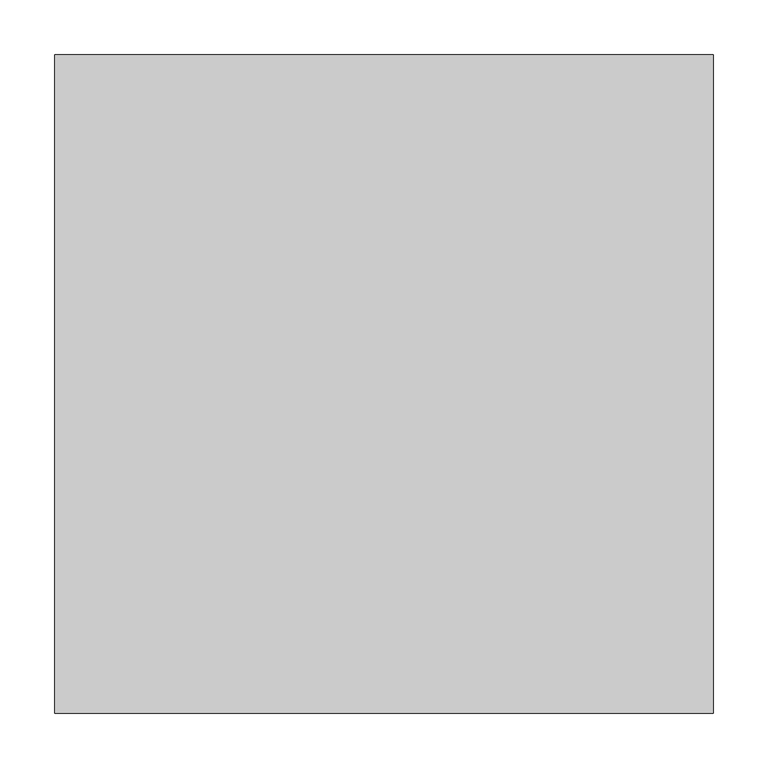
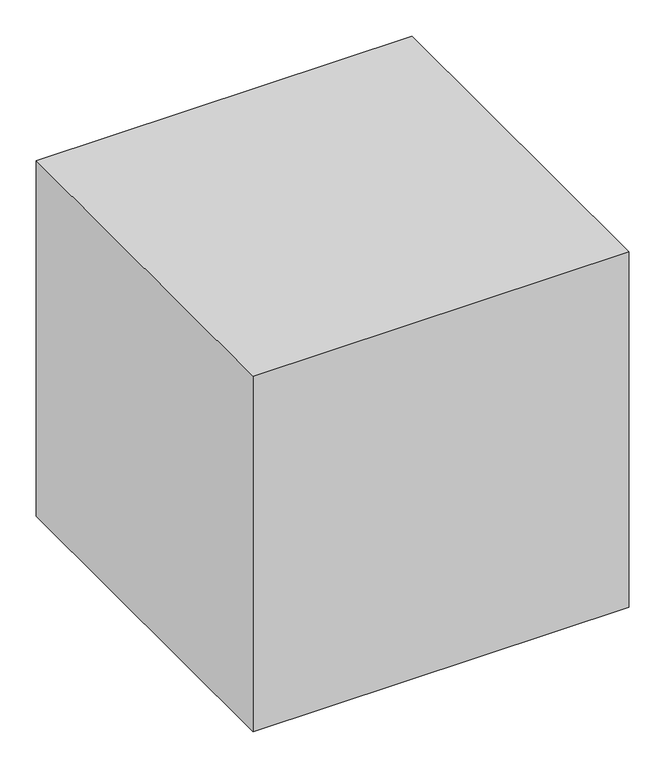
"""IFC4 building model written with IfcOpenShell, lengths in millimetres: proxy geometry, DMS-BWIC Family : BWIC_Square."""

from ifc_helpers import new_model, si_unit, frame, origin, place, context, project, spatial, polyline, outline, extrude, source, transform, mapped, element, save


def generic_models_9cc2939c(model_context):
    return source(origin(), model_context, "Body", "SweptSolid", [
        extrude(outline(polyline([(300.0, 300.0), (300.0, -300.0), (-300.0, -300.0), (-300.0, 300.0), (300.0, 300.0)])), frame((0.0, 0.0, -600.0), z_axis=(0.0, 0.0, 1.0), x_axis=(1.0, 0.0, 0.0)), (0.0, 0.0, 1.0), 600.0),
    ])


if __name__ == "__main__":
    model = new_model("IFC4")
    model_context = context("Model", 3, world=origin())
    ifc_project = project(units=[si_unit("LENGTHUNIT", "METRE", prefix="MILLI")], contexts=[model_context])
    site = spatial("IfcSite", under=ifc_project)
    building = spatial("IfcBuilding", under=site)
    placement = place(None, origin())
    generic_models_shape = generic_models_9cc2939c(model_context)
    element("IfcBuildingElementProxy", 1, Name="DMS-BWIC Family : BWIC_Square", ObjectType="DMS-BWIC Family : BWIC_Square", at=placement, inside=building, context=model_context, shape_type="MappedRepresentation", body=[
        mapped(generic_models_shape, transform((0.0, 0.0, 0.0), x_axis=(1.0, 0.0, 0.0), y_axis=(0.0, 1.0, 0.0), z_axis=(0.0, 0.0, 1.0))),
    ])
    save(model, "model.ifc")
